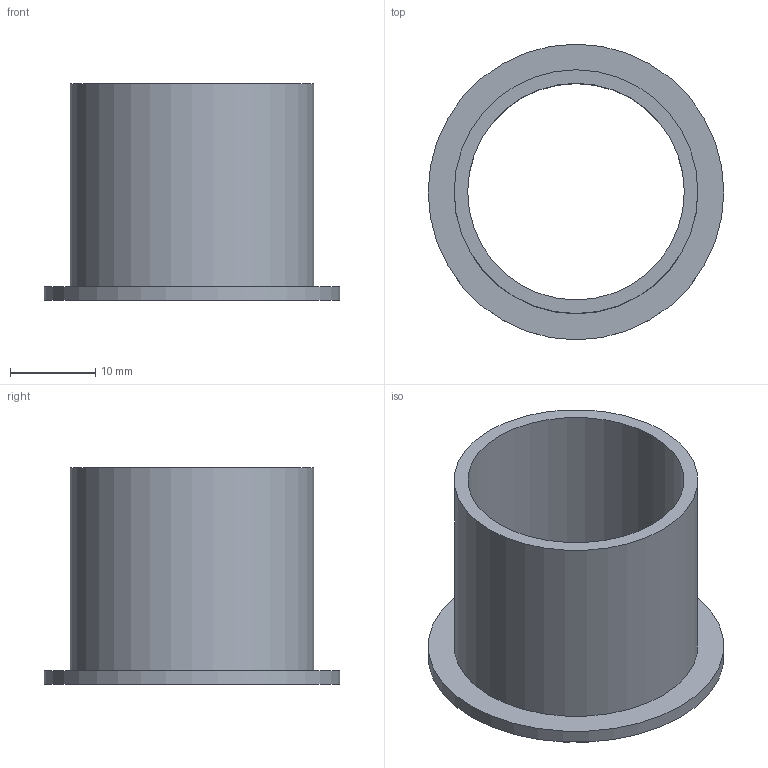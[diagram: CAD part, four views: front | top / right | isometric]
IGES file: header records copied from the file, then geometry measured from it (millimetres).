
Global section: file name: No Iges File Name specified; native system: AutoDesk Inventor R6.0; preprocessor: AutoDesk Inventor Iges Exporter R6.0; author: No Author specified; organization: No Organization specified; date: 20080121.072859; units: inch
Bounding box: 34.67 x 34.67 x 25.4 mm (x, y, z)
Surface area: 5212 mm2 (no closed solid volume)
Topology: 0 solids, 0 shells, 6 faces, 16 edges, 13 vertices
Faces by surface type: revolution 3, plane 3
